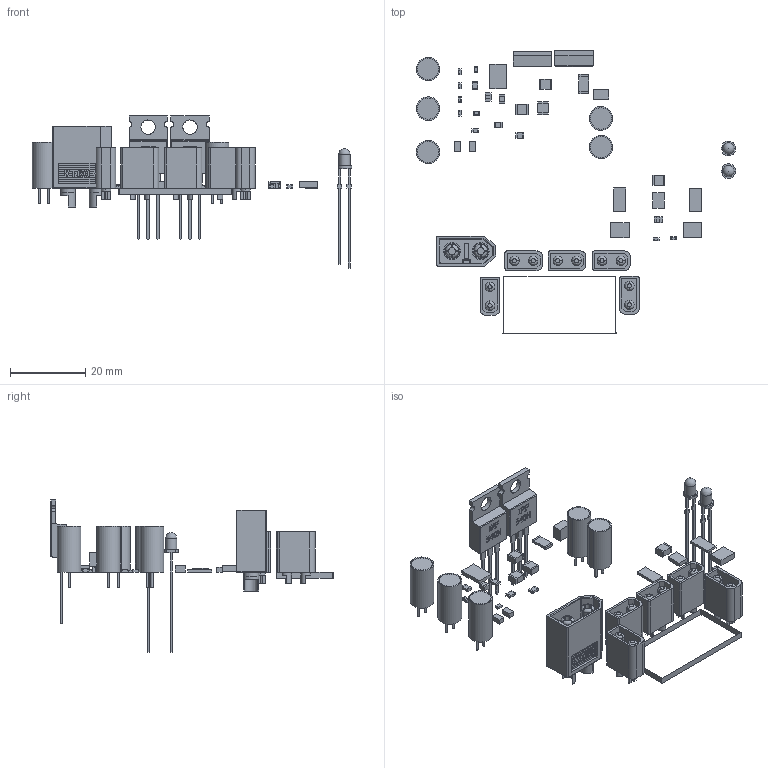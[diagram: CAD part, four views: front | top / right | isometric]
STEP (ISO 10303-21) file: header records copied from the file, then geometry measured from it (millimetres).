
FILE_DESCRIPTION(('Open CASCADE Model'),'2;1');
FILE_NAME('Open CASCADE Shape Model','2019-01-02T20:35:19',('Author'),( 'Open CASCADE'),'Open CASCADE STEP processor 6.5','Open CASCADE 6.5' ,'Unknown');
FILE_SCHEMA(('AUTOMOTIVE_DESIGN { 1 0 10303 214 1 1 1 1 }'));
Length unit declared in the file: millimetre
Products named in the file (101): PCB; Board; Cout1; PNSC-ECA-1VM101; Cout2; Cboot; -1929105008; Extruded; -1929105648; Ccomp1; C0603-ROUND; Ccomp2; -1929104624; -1929105904; Cin1_1; Cin2_1; Cin3_1; Cinx; CM; Cramp; Cres; Css; -1929106032; -1929105136; Cvcc; D1; -1929106288; Dvcc; LS_Ccomp; -1929106544; -1929109104; LS_Cpo1; LS_Cpo2; LS_Cvcc; LS_D1; WL-TMRW_3mm; LS_D2; LS_M1; -1929106928; LS_M2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
Assembly tree (142 placements, depth 4):
  PCB
    Board
    Cout1
      PNSC-ECA-1VM101
    Cout2
      PNSC-ECA-1VM101
    Cboot
      -1929105008
        Extruded
      -1929105648  x2
        Extruded
    Ccomp1
      C0603-ROUND
    Ccomp2
      -1929104624
        Extruded
      -1929105904  x2
        Extruded
    Cin1_1
      PNSC-ECA-1VM101
    Cin2_1
      PNSC-ECA-1VM101
    Cin3_1
      PNSC-ECA-1VM101
    Cinx
      -1929105008
        Extruded
      -1929105648  x2
        Extruded
    CM
    Cramp
      C0603-ROUND
    Cres
      C0603-ROUND
    Css
      -1929106032  x2
        Extruded
      -1929105136
        Extruded
    Cvcc
      C0603-ROUND
    D1
      -1929106288
        Extruded
    Dvcc
      -1929106288
        Extruded
    LS_Ccomp
      -1929106544  x2
        Extruded
      -1929109104
        Extruded
    LS_Cpo1
      C0603-ROUND
    LS_Cpo2
      C0603-ROUND
    LS_Cvcc
      -1929105008
        Extruded
      -1929105648  x2
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Bounding box: 84.78 x 74.91 x 40.38 mm (x, y, z)
Volume: 6922.2 mm3; surface area: 11189.9 mm2
Topology: 85 solids, 85 shells, 1703 faces, 4186 edges, 2685 vertices
Faces by surface type: plane 1157, cylinder 326, bspline 126, sphere 58, revolution 20, torus 14, cone 2
Full cylindrical faces by diameter (mm): 0.55 x10, 3 x2, 3.5 x2, 4 x4, 4.5 x2, 5.67 x5, 6 x2
Entity records: 68910 total; most frequent: CARTESIAN_POINT 21174, DIRECTION 6833, LINE 4364, VECTOR 4364, ORIENTED_EDGE 4326, PCURVE 4326, DEFINITIONAL_REPRESENTATION 4326, EDGE_CURVE 2163
